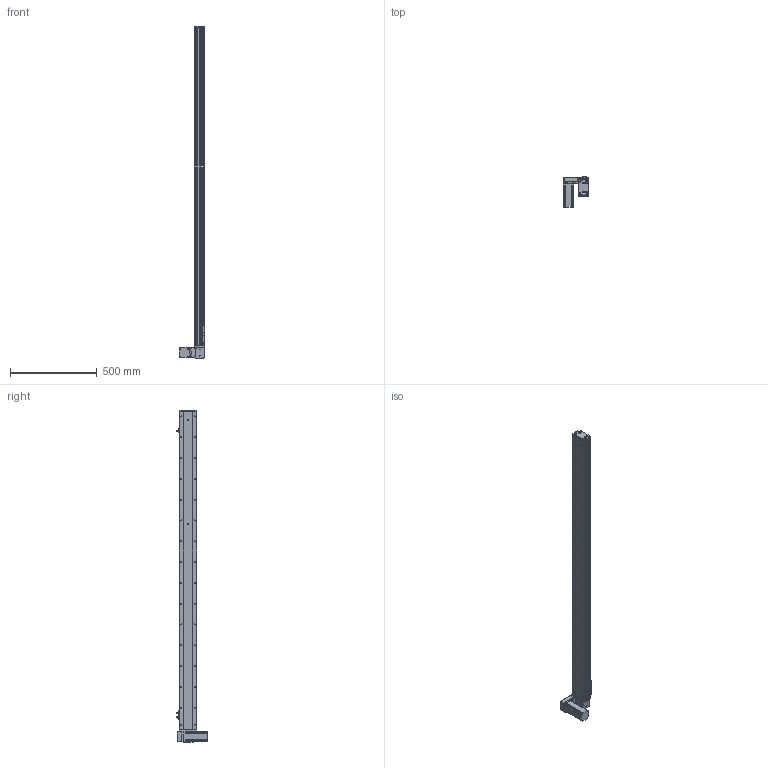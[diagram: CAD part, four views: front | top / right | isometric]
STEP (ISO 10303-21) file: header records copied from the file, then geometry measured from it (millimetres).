
FILE_DESCRIPTION (( 'STEP AP214' ), '1' );
FILE_NAME ('KSD100B-S1650-MLD-CM.STEP', '2019-11-11T03:32:38', ( '微软用户' ), ( '微软中国' ), 'SwSTEP 2.0', 'SolidWorks 2014', '' );
FILE_SCHEMA (( 'AUTOMOTIVE_DESIGN' ));
Length unit declared in the file: millimetre
Products named in the file (12): 悵誘欶奻狟殏; 100宽马达安装板连板上下折丝杆同步带; 台达ECMA－C20604AS伺服电机; U倰嫖萇EEㄜSX672; 覜茼え100遵圉猾敕; 100宽防尘板1650行程-同步带; 100宽马达安装板同步带左; 100宽同步带安装板半封闭; 100宽马达安装板同步带; 100遵傷啣肮祭湍; 100宽底板半封闭同步带1650行程; KSD100B-S1650-MLD-CM
Assembly tree (13 placements, depth 2):
  KSD100B-S1650-MLD-CM
    100宽底板半封闭同步带1650行程
    100遵傷啣肮祭湍
    100宽马达安装板同步带
    100宽同步带安装板半封闭
    100宽马达安装板同步带左
    100宽防尘板1650行程-同步带
    覜茼え100遵圉猾敕
    U倰嫖萇EEㄜSX672  x3
    台达ECMA－C20604AS伺服电机
    100宽马达安装板连板上下折丝杆同步带
    悵誘欶奻狟殏
Bounding box: 148 x 174.7 x 1915 mm (x, y, z)
Volume: 4013239.9 mm3; surface area: 1370157.3 mm2
Topology: 14 solids, 14 shells, 1665 faces, 4724 edges, 2977 vertices
Faces by surface type: cylinder 867, plane 615, cone 183
Entity records: 61105 total; most frequent: CARTESIAN_POINT 13058, DIRECTION 8244, ORIENTED_EDGE 7988, EDGE_CURVE 3994, AXIS2_PLACEMENT_3D 3037, VERTEX_POINT 2601, VECTOR 2170, LINE 2170
